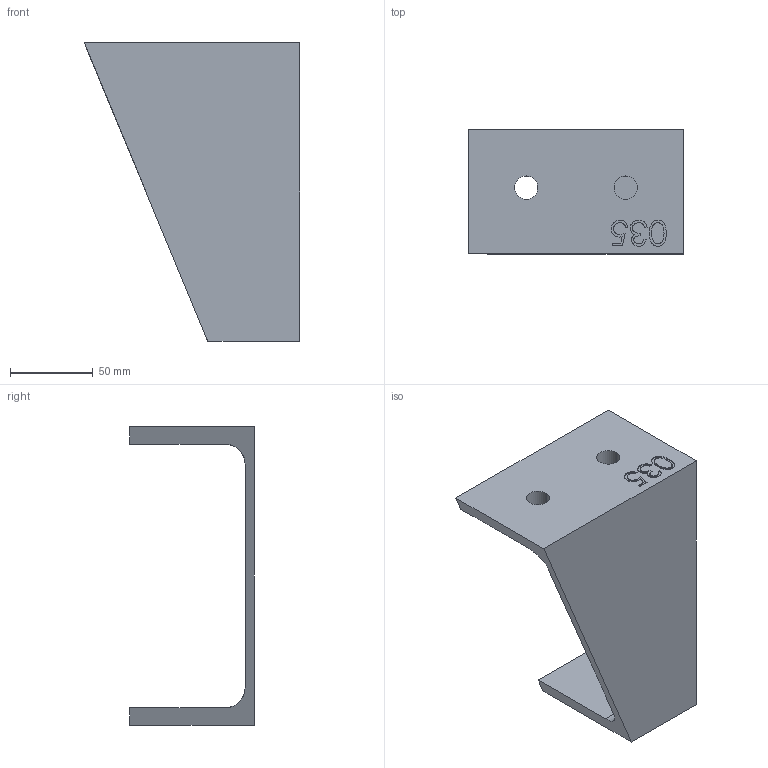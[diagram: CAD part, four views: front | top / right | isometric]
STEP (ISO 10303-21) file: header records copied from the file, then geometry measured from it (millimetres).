
FILE_DESCRIPTION (( 'STEP AP214' ), '1' );
FILE_NAME ('CCJ029-REP.035 - MONTANT ESCALIER INTERMEDIAIRE DOUBLE 1.STEP', '2024-01-31T09:03:40', ( '' ), ( '' ), 'SwSTEP 2.0', 'SolidWorks 2021', '' );
FILE_SCHEMA (( 'AUTOMOTIVE_DESIGN' ));
Length unit declared in the file: millimetre
Products named in the file (1): CCJ029-REP.035 - MONTANT ESCALIER INTERMEDIAIRE DOUBLE 1
Bounding box: 130 x 75 x 180 mm (x, y, z)
Volume: 229540.9 mm3; surface area: 64866.4 mm2
Topology: 1 solids, 1 shells, 60 faces, 162 edges, 108 vertices
Faces by surface type: bspline 31, plane 23, cylinder 6
Entity records: 3768 total; most frequent: CARTESIAN_POINT 2424, ORIENTED_EDGE 324, DIRECTION 168, EDGE_CURVE 162, VERTEX_POINT 108, LINE 88, VECTOR 88, EDGE_LOOP 68
